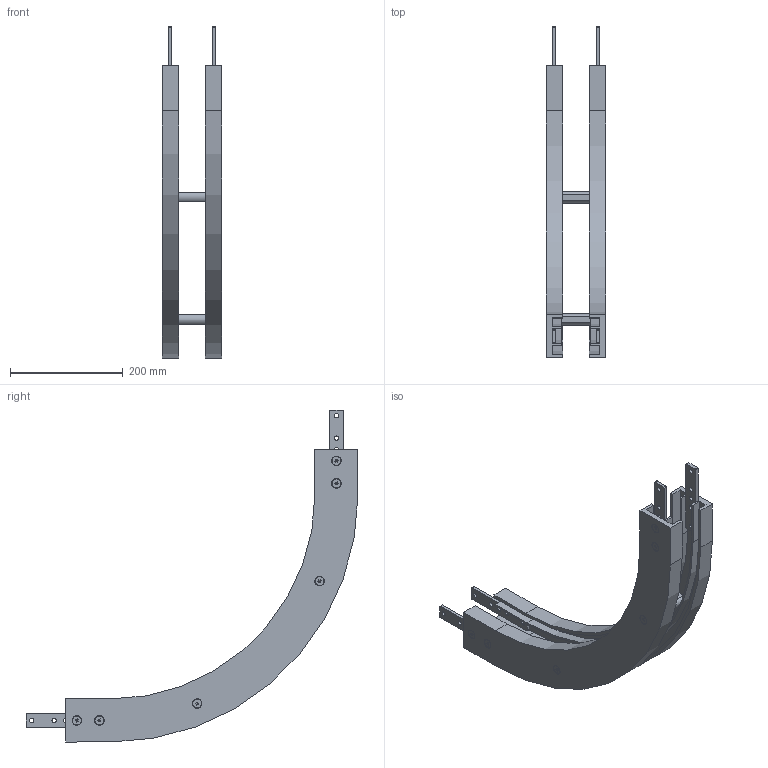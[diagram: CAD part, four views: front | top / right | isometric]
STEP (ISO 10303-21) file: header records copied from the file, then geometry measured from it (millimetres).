
FILE_DESCRIPTION (( 'STEP AP203' ), '1' );
FILE_NAME ('FCVB-90 R400.STEP', '2007-12-12T08:54:13', ( ' ' ), ( ' ' ), 'SwSTEP 2.0', 'SolidWorks 2008', '' );
FILE_SCHEMA (( 'CONFIG_CONTROL_DESIGN' ));
Length unit declared in the file: millimetre
Products named in the file (5): FGDT 3X20 lg85_Défaut; FACS-25.éclisse larg 25mm; courbe verticale FC105-R400_90R400; Vis F HC, M 8x12_Défaut; FCVB-90 R400
Assembly tree (19 placements, depth 2):
  FCVB-90 R400
    Vis F HC, M 8x12_Défaut  x12
    FGDT 3X20 lg85_Défaut  x2
    courbe verticale FC105-R400_90R400
    FACS-25.éclisse larg 25mm  x4
Bounding box: 105 x 588.15 x 588.15 mm (x, y, z)
Volume: 1840778 mm3; surface area: 562614.1 mm2
Topology: 20 solids, 20 shells, 644 faces, 1656 edges, 1040 vertices
Faces by surface type: plane 276, cylinder 236, cone 108, bspline 24
Entity records: 8283 total; most frequent: CARTESIAN_POINT 2721, DIRECTION 995, ORIENTED_EDGE 946, EDGE_CURVE 473, AXIS2_PLACEMENT_3D 353, VERTEX_POINT 304, VECTOR 289, LINE 289
